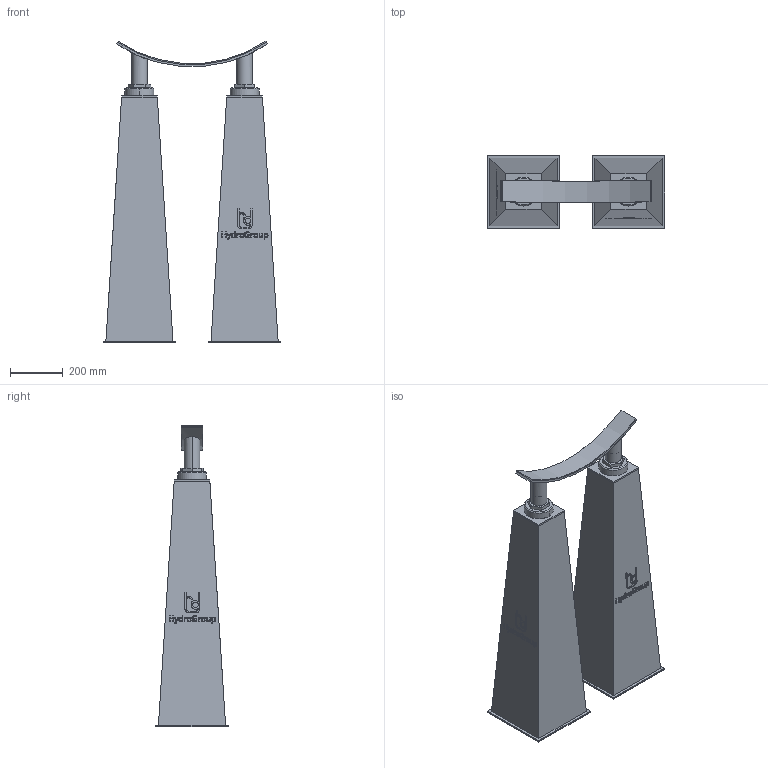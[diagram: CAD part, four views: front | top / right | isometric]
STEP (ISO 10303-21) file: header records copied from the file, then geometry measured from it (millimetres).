
FILE_DESCRIPTION(('STEP AP214'),'1');
FILE_NAME('RSRFE-III-DUO_DN1000.stp','2018-06-29T07:57:43',(' '),(' '),'Spatial InterOp 3D',' ',' ');
FILE_SCHEMA(('automotive_design'));
Length unit declared in the file: millimetre
Products named in the file (10): 1; 2; 3; 4; 5; 6; 7; 8; 9; 10
Bounding box: 676.01 x 276.01 x 1148.51 mm (x, y, z)
Volume: 77708333.7 mm3; surface area: 2454553.7 mm2
Topology: 10 solids, 12 shells, 422 faces, 1042 edges, 680 vertices
Faces by surface type: plane 270, cylinder 72, extrusion 48, cone 32
Entity records: 17769 total; most frequent: CARTESIAN_POINT 4282, ORIENTED_EDGE 2084, DIRECTION 1882, EDGE_CURVE 1042, VECTOR 802, LINE 754, VERTEX_POINT 680, AXIS2_PLACEMENT_3D 540
